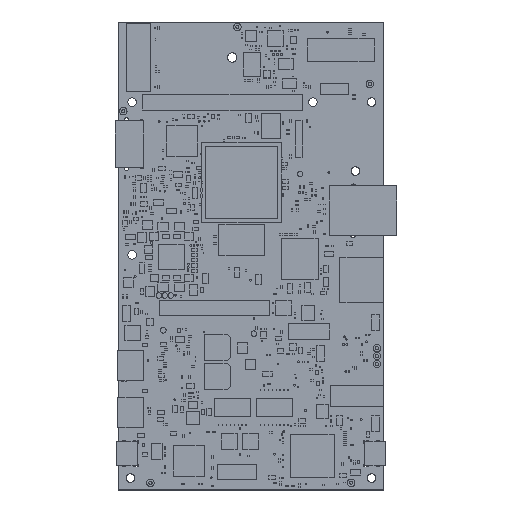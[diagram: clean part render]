
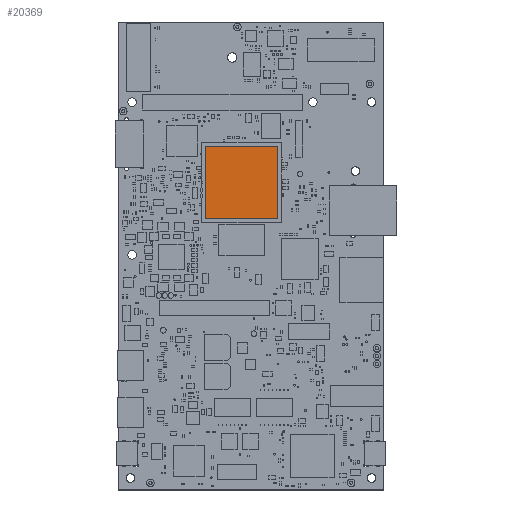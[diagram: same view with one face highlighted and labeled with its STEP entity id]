
A CAD part, top view. The second image highlights one B-rep face of the part: STEP entity #20369.
In plain terms, the highlighted planar face has unit normal (0, 0, 1).
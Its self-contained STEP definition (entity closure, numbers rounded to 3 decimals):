
#12347=FACE_OUTER_BOUND($,#13797,.F.);
#13797=EDGE_LOOP($,(#23837,#23838,#23839,#23840));
#15717=AXIS2_PLACEMENT_3D($,#46253,#38233,$);
#19245=PLANE($,#15717);
#20369=ADVANCED_FACE($,(#12347),#19245,.T.);
#23837=ORIENTED_EDGE($,*,*,#27808,.T.);
#23838=ORIENTED_EDGE($,*,*,#27809,.T.);
#23839=ORIENTED_EDGE($,*,*,#27810,.T.);
#23840=ORIENTED_EDGE($,*,*,#27811,.T.);
#27808=EDGE_CURVE($,#34907,#34908,#32308,.T.);
#27809=EDGE_CURVE($,#34908,#34909,#32309,.T.);
#27810=EDGE_CURVE($,#34909,#34910,#32310,.T.);
#27811=EDGE_CURVE($,#34910,#34907,#32311,.T.);
#30064=VECTOR($,#39523,23.114);
#30065=VECTOR($,#39524,23.114);
#30066=VECTOR($,#39525,23.114);
#30067=VECTOR($,#39526,23.114);
#32308=LINE($,#46252,#30064);
#32309=LINE($,#46253,#30065);
#32310=LINE($,#46254,#30066);
#32311=LINE($,#46255,#30067);
#34907=VERTEX_POINT($,#46252);
#34908=VERTEX_POINT($,#46253);
#34909=VERTEX_POINT($,#46254);
#34910=VERTEX_POINT($,#46255);
#38233=DIRECTION($,(0.,0.,1.));
#39523=DIRECTION($,(0.,-1.,0.));
#39524=DIRECTION($,(-1.,0.,0.));
#39525=DIRECTION($,(0.,1.,0.));
#39526=DIRECTION($,(1.,0.,0.));
#46252=CARTESIAN_POINT('',(11.557,11.557,10.719));
#46253=CARTESIAN_POINT('',(11.557,-11.557,10.719));
#46254=CARTESIAN_POINT('',(-11.557,-11.557,10.719));
#46255=CARTESIAN_POINT('',(-11.557,11.557,10.719));
